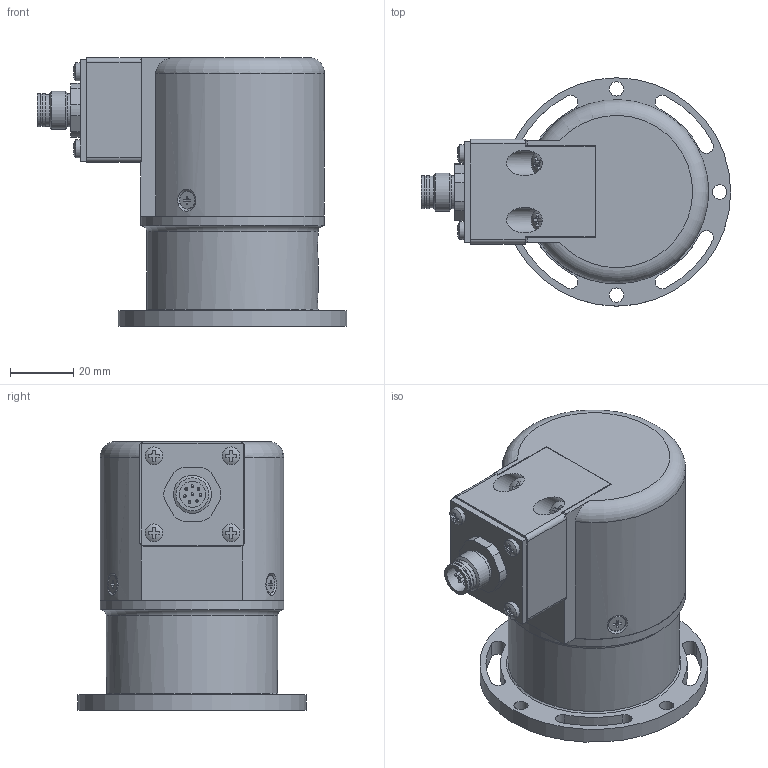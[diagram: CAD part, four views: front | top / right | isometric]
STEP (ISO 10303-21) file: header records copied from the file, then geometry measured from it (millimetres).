
FILE_DESCRIPTION(/* description */ ('Unknown'),/* implementation_level */ '2;1');
FILE_NAME(/* name */ 'EL_ER_72A_10mm_IP54_M12R',/* time_stamp */ '2019-06-11T12:58:04+02:00',/* author */ ('Unknown'),/* organization */ ('Unknown'),/* preprocessor_version */ 'ST-DEVELOPER v16.7',/* originating_system */ 'DEX',/* authorisation */ $);
FILE_SCHEMA (('AUTOMOTIVE_DESIGN {1 0 10303 214 3 1 1}'));
Length unit declared in the file: millimetre
Products named in the file (1): EL_ER_72A_10mm_IP54_M12R
Bounding box: 97.54 x 72 x 84.8 mm (x, y, z)
Volume: 120376.6 mm3; surface area: 82258.1 mm2
Topology: 38 solids, 40 shells, 894 faces, 2186 edges, 1392 vertices
Faces by surface type: plane 364, cylinder 277, torus 109, cone 75, bspline 39, sphere 30
Full cylindrical faces by diameter (mm): 0.9 x16, 1.5 x8, 2 x2, 2.013 x2, 2.2 x28, 2.459 x6, 2.5 x4, 3 x3, 3.242 x8, 3.5 x7, 4.5 x6, 5.6 x7, 6 x1, 7 x1, 7.232 x2, 8 x2, 8.25 x1, 10 x15, 10.4 x3, 10.5 x1, 11 x1, 12 x2, 12.4 x1, 13 x1, 13.8 x1, 14.5 x4, 14.53 x1, 15 x2, 15.2 x1, 21.2 x4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
Entity records: 36825 total; most frequent: CARTESIAN_POINT 17905, DIRECTION 3720, ORIENTED_EDGE 3310, EDGE_CURVE 1655, AXIS2_PLACEMENT_3D 1501, FACE_BOUND 1228, VERTEX_POINT 1201, EDGE_LOOP 1194
